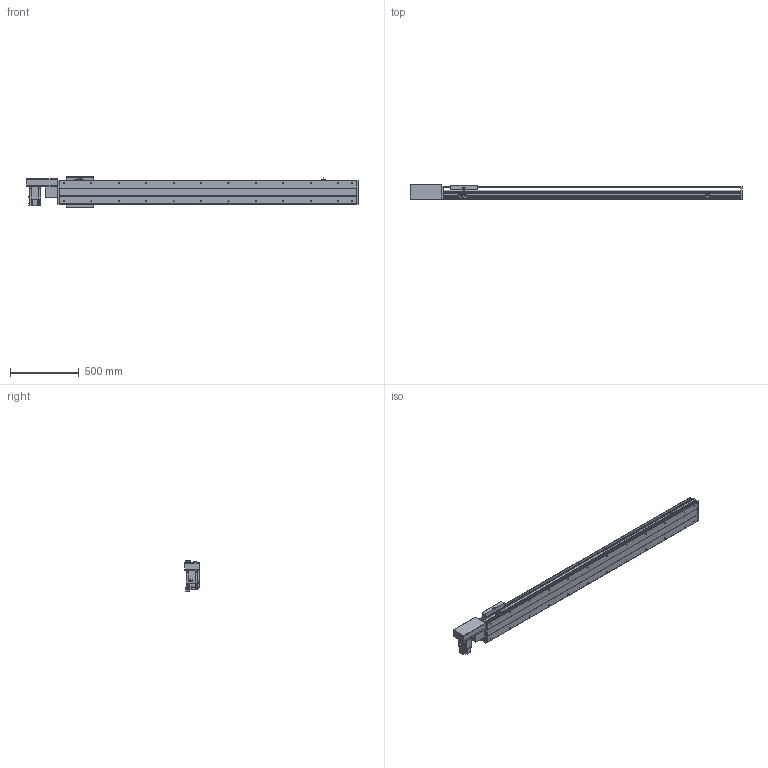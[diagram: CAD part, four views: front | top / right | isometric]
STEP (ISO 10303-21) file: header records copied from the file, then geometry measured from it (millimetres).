
FILE_DESCRIPTION(/* description */ ('STEP AP214'),/* implementation_level */ '2;1');
FILE_NAME(/* name */ 'PBS200-P40-S1800-R-T75-C1-N(0)',/* time_stamp */ '2022-06-11T08:07:36+02:00',/* author */ ('License CC BY-ND 4.0'),/* organization */ ('CADENAS'),/* preprocessor_version */ 'ST-DEVELOPER v18.102',/* originating_system */ 'PARTsolutions',/* authorisation */ ' ');
FILE_SCHEMA (('AUTOMOTIVE_DESIGN {1 0 10303 214 3 1 1}'));
Length unit declared in the file: millimetre
Products named in the file (7): PBS200-P40-S1800-R-T75-C1-N(0); PBS200_sensor; PBS200_plant; PBS200_sliser; T75-p1; PBS200T-R_motors; PBS200-S1800()_body
Assembly tree (8 placements, depth 2):
  PBS200-P40-S1800-R-T75-C1-N(0)
    PBS200_sensor  x3
    PBS200_plant
    PBS200_sliser
    T75-p1
    PBS200T-R_motors
    PBS200-S1800()_body
Bounding box: 2422 x 109 x 221 mm (x, y, z)
Volume: 16232684.6 mm3; surface area: 2607256.8 mm2
Topology: 8 solids, 8 shells, 944 faces, 2414 edges, 1572 vertices
Faces by surface type: plane 582, cylinder 306, cone 56
Full cylindrical faces by diameter (mm): 2.459 x6, 3.242 x4, 4.5 x6, 4.917 x4, 5 x6, 6 x7, 6.6 x8, 6.647 x28, 8 x6, 10 x4, 12 x8, 38 x2, 40 x1, 70 x1
Entity records: 25061 total; most frequent: DIRECTION 4423, CARTESIAN_POINT 4264, ORIENTED_EDGE 4030, EDGE_CURVE 2015, AXIS2_PLACEMENT_3D 1555, VERTEX_POINT 1396, LINE 1313, VECTOR 1313
